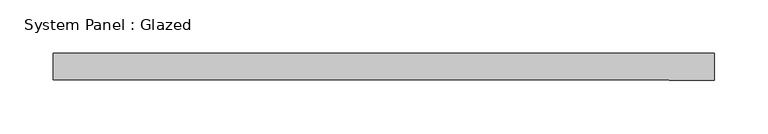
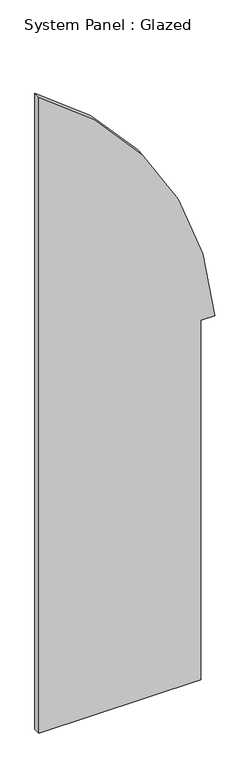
"""IFC4 building model written with IfcOpenShell, lengths in millimetres: plate geometry, System Panel : Glazed."""

from ifc_helpers import new_model, si_unit, point, frame, frame_2d, origin, place, context, project, spatial, polyline, circle_curve, trimmed, segment, composite_curve, outline, extrude, source, transform, mapped, element, save


def system_panel_glazed_70a43815(model_context):
    return source(origin(), model_context, "Body", "SweptSolid", [
        extrude(outline(composite_curve([segment(polyline([(0.0, -310.4675506), (0.0, 260.4675506), (1342.2482609, 260.4675506), (1342.2482609, 310.4675506)]), True, "CONTINUOUS"), segment(trimmed(circle_curve(frame_2d((1237.5644347, -1035.4675506)), 1350.0), [point((1342.2482609, 310.4675506))], [point((2376.3686321, -310.4675506))], False, "CARTESIAN"), True, "CONTINUOUS"), segment(polyline([(2376.3686321, -310.4675506), (0.0, -310.4675506)]), True, "CONTINUOUS")], self_intersect=False)), frame((0.0, -12.5, 0.0), z_axis=(0.0, 1.0, 0.0), x_axis=(0.0, 0.0, 1.0)), (0.0, 0.0, 1.0), 25.0),
    ])


if __name__ == "__main__":
    model = new_model("IFC4")
    model_context = context("Model", 3, world=origin())
    ifc_project = project(units=[si_unit("LENGTHUNIT", "METRE", prefix="MILLI")], contexts=[model_context])
    site = spatial("IfcSite", under=ifc_project)
    building = spatial("IfcBuilding", under=site)
    placement = place(None, origin())
    system_panel_glazed_shape = system_panel_glazed_70a43815(model_context)
    element("IfcPlate", 1, ObjectType="System Panel : Glazed", at=placement, inside=building, context=model_context, shape_type="MappedRepresentation", body=[
        mapped(system_panel_glazed_shape, transform((0.0, 0.0, 0.0), x_axis=(1.0, 0.0, 0.0), y_axis=(0.0, 1.0, 0.0), z_axis=(0.0, 0.0, 1.0))),
    ])
    save(model, "model.ifc")
